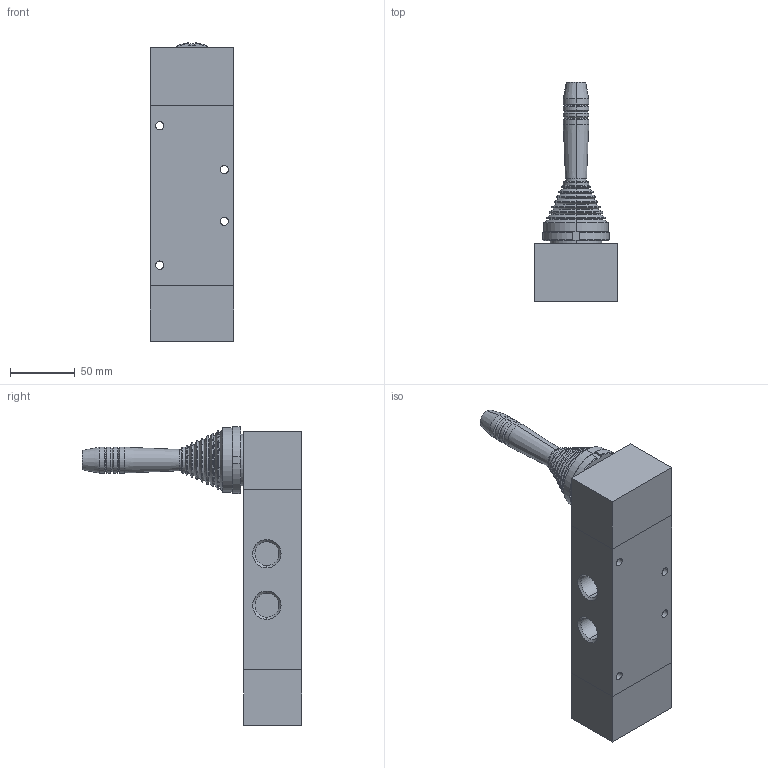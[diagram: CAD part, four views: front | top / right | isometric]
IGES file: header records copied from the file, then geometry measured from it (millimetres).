
Global section: file name: No Iges File Name specified; native system: AutoDesk Inventor R11.0; preprocessor: AutoDesk Inventor Iges Exporter R11.0; author: No Author specified; organization: No Organization specified; date: 20061219.152826; units: millimetre
Bounding box: 65 x 170 x 231.38 mm (x, y, z)
Volume: 720219.8 mm3; surface area: 80877.6 mm2
Topology: 2 solids, 2 shells, 170 faces, 374 edges, 222 vertices
Faces by surface type: cone 54, plane 37, bspline 25, cylinder 24, torus 16, revolution 14
